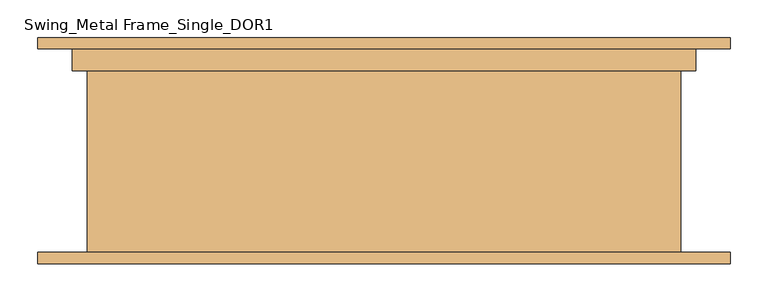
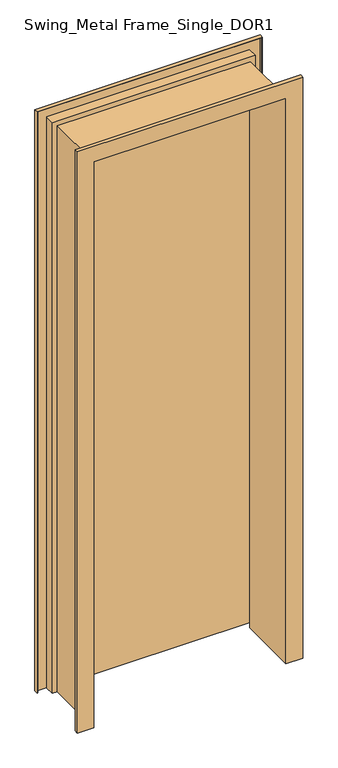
"""IFC4 building model written with IfcOpenShell, lengths in millimetres: door geometry, Swing_Metal Frame_Single_DOR1 : 2040h x 820 (2110x920 STUD)."""

import ifcopenshell
import ifcopenshell.guid

model = None  # the IFC model being written
_history = None  # IfcOwnerHistory: only IFC2X3 demands one
_inside = {}  # id of a spatial element -> (the spatial element, [elements in it])
_under = {}  # id of a project, library or spatial element -> (it, [spatial elements below it])
_declared = {}  # id of a project -> (the project, [libraries it declares])
_typed = {}  # id of a type object -> (the type object, [elements of that type])
_made_of = {}  # id of a material, layer set ... -> (it, [elements and type objects made of it])


def new_model(schema):
    """Start an empty IFC model of exactly this schema.

    Asked for "IFC4X3", IfcOpenShell would pick the latest addendum, in which some entities
    have other attributes; the version numbers below select the first issue.
    IFC2X3 requires an IfcOwnerHistory on every rooted entity: one is made here for all.
    """
    global model, _history
    if schema == "IFC4X3":
        model = ifcopenshell.file(schema_version=(4, 3, 0, 0))
    else:
        model = ifcopenshell.file(schema=schema)
    _inside.clear()
    _under.clear()
    _declared.clear()
    _typed.clear()
    _made_of.clear()
    _history = None
    if model.schema == "IFC2X3":
        org = make("IfcOrganization", Name="unknown")
        user = make(
            "IfcPersonAndOrganization",
            ThePerson=make("IfcPerson", FamilyName="unknown"),
            TheOrganization=org,
        )
        app = make(
            "IfcApplication",
            ApplicationDeveloper=org,
            Version="unknown",
            ApplicationFullName="unknown",
            ApplicationIdentifier="unknown",
        )
        _history = make(
            "IfcOwnerHistory",
            OwningUser=user,
            OwningApplication=app,
            ChangeAction="ADDED",
            CreationDate=0,
        )
    return model


def make(cls, **values):
    """One entity of the class cls with the attributes given. An attribute that is None is left unset."""
    return model.create_entity(
        cls, **{name: value for name, value in values.items() if value is not None}
    )


def rooted(cls, **values):
    """An entity with a GlobalId (a new one), such as an element, a storey or a relation."""
    return make(cls, GlobalId=ifcopenshell.guid.new(), OwnerHistory=_history, **values)


def si_unit(unit_type, name, prefix=None):
    """IfcSIUnit, for example si_unit("LENGTHUNIT", "METRE", prefix="MILLI")."""
    return make("IfcSIUnit", UnitType=unit_type, Prefix=prefix, Name=name)


def assignment(units):
    """IfcUnitAssignment: the units of a project."""
    return None if units is None else make("IfcUnitAssignment", Units=units)


def point(xyz):
    """IfcCartesianPoint."""
    return None if xyz is None else make("IfcCartesianPoint", Coordinates=xyz)


def direction(xyz):
    """IfcDirection."""
    return None if xyz is None else make("IfcDirection", DirectionRatios=xyz)


def frame(location, z_axis=None, x_axis=None):
    """IfcAxis2Placement3D, a coordinate frame: its origin and axes. An axis left out is left unset."""
    return make(
        "IfcAxis2Placement3D",
        Location=point(location),
        Axis=direction(z_axis),
        RefDirection=direction(x_axis),
    )


def origin():
    """The frame at (0, 0, 0) with its axes left unset."""
    return frame((0.0, 0.0, 0.0))


def place(relative_to, where):
    """IfcLocalPlacement: puts the frame where relative to a parent placement (None: the world)."""
    return make(
        "IfcLocalPlacement", PlacementRelTo=relative_to, RelativePlacement=where
    )


def context(
    kind, dimensions, precision=None, world=None, true_north=None, identifier=None
):
    """IfcGeometricRepresentationContext, for example the 3D "Model" context."""
    return make(
        "IfcGeometricRepresentationContext",
        ContextIdentifier=identifier,
        ContextType=kind,
        CoordinateSpaceDimension=dimensions,
        Precision=precision,
        WorldCoordinateSystem=world,
        TrueNorth=true_north,
    )


def project(units=None, contexts=None):
    """IfcProject with its units and contexts."""
    return rooted(
        "IfcProject",
        Name="project",
        RepresentationContexts=contexts,
        UnitsInContext=assignment(units),
    )


def spatial(cls, under=None, at=None, **own):
    """A site, building, storey or space (cls), placed at a placement, below another one or the project."""
    s = rooted(cls, ObjectPlacement=at, **own)
    if under is not None:
        _under.setdefault(under.id(), (under, []))[1].append(s)
    return s


def polyline(points):
    """IfcPolyline through the points."""
    return make("IfcPolyline", Points=[point(p) for p in points])


def outline(outer, holes=None, kind="AREA"):
    """IfcArbitraryClosedProfileDef: a profile drawn as a closed curve; with holes, ...WithVoids."""
    if holes is None:
        return make("IfcArbitraryClosedProfileDef", ProfileType=kind, OuterCurve=outer)
    return make(
        "IfcArbitraryProfileDefWithVoids",
        ProfileType=kind,
        OuterCurve=outer,
        InnerCurves=holes,
    )


def extrude(swept, where, along, depth):
    """IfcExtrudedAreaSolid: the profile swept, set in the frame where, extruded along a direction by depth."""
    return make(
        "IfcExtrudedAreaSolid",
        SweptArea=swept,
        Position=where,
        ExtrudedDirection=direction(along),
        Depth=depth,
    )


def faces_of(points, faces, orient=None, outer=None):
    """IfcFace entities. A face is a list of loops; a loop is a list of indices into points, from 0.

    orient and outer hold one flag for each loop. By default every Orientation is true, the
    first loop of a face is its IfcFaceOuterBound and the others are IfcFaceBound.
    """
    made = []
    for i, loops in enumerate(faces):
        bounds = []
        for j, loop in enumerate(loops):
            is_outer = j == 0 if outer is None else outer[i][j]
            bounds.append(
                make(
                    "IfcFaceOuterBound" if is_outer else "IfcFaceBound",
                    Bound=make("IfcPolyLoop", Polygon=[points[k] for k in loop]),
                    Orientation=True if orient is None else orient[i][j],
                )
            )
        made.append(make("IfcFace", Bounds=bounds))
    return made


def faceted_brep(points, faces, orient=None, outer=None, voids=None):
    """IfcFacetedBrep: a solid bounded by flat faces; with voids (closed shells), ...WithVoids."""
    shared = [point(p) for p in points]
    hull = make("IfcClosedShell", CfsFaces=faces_of(shared, faces, orient, outer))
    if voids is None:
        return make("IfcFacetedBrep", Outer=hull)
    return make(
        "IfcFacetedBrepWithVoids",
        Outer=hull,
        Voids=[
            make(cls, CfsFaces=faces_of(shared, fs, o, b)) for cls, fs, o, b in voids
        ],
    )


def shape(context_of_items, identifier, shape_type, items):
    """IfcShapeRepresentation: the items that make up one representation, for example the "Body"."""
    return make(
        "IfcShapeRepresentation",
        ContextOfItems=context_of_items,
        RepresentationIdentifier=identifier,
        RepresentationType=shape_type,
        Items=items,
    )


def source(mapping_origin, context_of_items, identifier, shape_type, items):
    """IfcRepresentationMap: a shape defined once, which mapped items show again and again."""
    return make(
        "IfcRepresentationMap",
        MappingOrigin=mapping_origin,
        MappedRepresentation=shape(context_of_items, identifier, shape_type, items),
    )


def transform(
    local_origin,
    x_axis=None,
    y_axis=None,
    z_axis=None,
    scale=None,
    scale2=None,
    scale3=None,
    uniform=True,
):
    """IfcCartesianTransformationOperator3D, or its non-uniform kind. x_axis, y_axis, z_axis: its Axis1, 2, 3."""
    if uniform:
        return make(
            "IfcCartesianTransformationOperator3D",
            Axis1=direction(x_axis),
            Axis2=direction(y_axis),
            LocalOrigin=point(local_origin),
            Scale=scale,
            Axis3=direction(z_axis),
        )
    return make(
        "IfcCartesianTransformationOperator3DnonUniform",
        Axis1=direction(x_axis),
        Axis2=direction(y_axis),
        LocalOrigin=point(local_origin),
        Scale=scale,
        Axis3=direction(z_axis),
        Scale2=scale2,
        Scale3=scale3,
    )


def mapped(mapping_source, mapping_target):
    """IfcMappedItem: shows the shape of a source again, moved by a transform."""
    return make(
        "IfcMappedItem", MappingSource=mapping_source, MappingTarget=mapping_target
    )


def made_of(thing, what):
    """Note that an element or type object is made of a material, layer set ...; save() writes the relation."""
    if what is not None:
        _made_of.setdefault(what.id(), (what, []))[1].append(thing)
    return thing


def element(
    cls,
    number,
    at=None,
    inside=None,
    cuts=None,
    type_object=None,
    material=None,
    context=None,
    identifier="Body",
    shape_type=None,
    held_by="IfcProductDefinitionShape",
    body=None,
    shapes=None,
    **own,
):
    """One element of the class cls, such as IfcWall. Its Tag is "e" and its number.

    at: its placement. inside: the storey or other place that contains it. cuts: it is an
    opening in that element (IfcRelVoidsElement). A single representation is given by context,
    identifier, shape_type and body (its items); several are given by shapes. held_by: the class
    of the entity that holds the representations. save() writes the other relations.
    """
    e = rooted(cls, Tag="e%d" % number, ObjectPlacement=at, **own)
    if body is not None:
        shapes = [shape(context, identifier, shape_type, body)]
    if shapes is not None:
        e.Representation = make(held_by, Representations=shapes)
    if inside is not None:
        _inside.setdefault(inside.id(), (inside, []))[1].append(e)
    if cuts is not None:
        rooted(
            "IfcRelVoidsElement", RelatingBuildingElement=cuts, RelatedOpeningElement=e
        )
    if type_object is not None:
        _typed.setdefault(type_object.id(), (type_object, []))[1].append(e)
    return made_of(e, material)


def aggregate(whole, parts):
    """IfcRelAggregates: a whole, such as a stair, and the parts it consists of."""
    return rooted("IfcRelAggregates", RelatingObject=whole, RelatedObjects=parts)


def save(model, path):
    """Write the relations noted so far, then the file.

    IfcRelAggregates (storeys below a building ...), IfcRelContainedInSpatialStructure (elements
    in a storey), IfcRelDefinesByType, IfcRelAssociatesMaterial and IfcRelDeclares: one each for
    every whole, place, type object, material and project.
    """
    for whole, parts in _under.values():
        aggregate(whole, parts)
    for where, things in _inside.values():
        rooted(
            "IfcRelContainedInSpatialStructure",
            RelatedElements=things,
            RelatingStructure=where,
        )
    for kind, things in _typed.values():
        rooted("IfcRelDefinesByType", RelatedObjects=things, RelatingType=kind)
    for what, things in _made_of.values():
        rooted("IfcRelAssociatesMaterial", RelatedObjects=things, RelatingMaterial=what)
    for by, libraries in _declared.values():
        rooted("IfcRelDeclares", RelatingContext=by, RelatedDefinitions=libraries)
    model.write(path)


def swing_metal_frame_single_dor1_c5ce34d2(model_context):
    return source(origin(), model_context, "Body", "SolidModel", [
        extrude(outline(polyline([(410.0, 150.0), (410.0, 110.0), (-410.0, 110.0), (-410.0, 150.0), (410.0, 150.0)])), frame((0.0, 0.0, 20.0), z_axis=(0.0, 0.0, 1.0), x_axis=(1.0, 0.0, 0.0)), (0.0, 0.0, 1.0), 2440.0),
        faceted_brep([(-460.0, -150.0, 0.0), (-460.0, -135.0, 0.0), (-458.0, -135.0, 0.0), (-458.0, -148.0, 0.0), (-394.0, -148.0, 0.0), (-394.0, 106.0, 0.0), (-414.0, 106.0, 0.0), (-414.0, 148.0, 0.0), (-458.0, 148.0, 0.0), (-458.0, 135.0, 0.0), (-460.0, 135.0, 0.0), (-460.0, 150.0, 0.0), (-412.0, 150.0, 0.0), (-412.0, 108.0, 0.0), (-392.0, 108.0, 0.0), (-392.0, -150.0, 0.0), (-460.0, -150.0, 2510.0), (-460.0, -135.0, 2510.0), (460.0, -135.0, 2510.0), (460.0, -135.0, 0.0), (458.0, -135.0, 0.0), (458.0, -135.0, 2508.0), (-458.0, -135.0, 2508.0), (-458.0, -148.0, 2508.0), (458.0, -148.0, 2508.0), (458.0, -148.0, 0.0), (394.0, -148.0, 0.0), (394.0, -148.0, 2444.0), (-394.0, -148.0, 2444.0), (-394.0, 106.0, 2444.0), (394.0, 106.0, 2444.0), (394.0, 106.0, 0.0), (414.0, 106.0, 0.0), (414.0, 106.0, 2464.0), (-414.0, 106.0, 2464.0), (-414.0, 148.0, 2464.0), (414.0, 148.0, 2464.0), (414.0, 148.0, 0.0), (458.0, 148.0, 0.0), (458.0, 148.0, 2508.0), (-458.0, 148.0, 2508.0), (-458.0, 135.0, 2508.0), (458.0, 135.0, 2508.0), (458.0, 135.0, 0.0), (460.0, 135.0, 0.0), (460.0, 135.0, 2510.0), (-460.0, 135.0, 2510.0), (-460.0, 150.0, 2510.0), (460.0, 150.0, 2510.0), (460.0, 150.0, 0.0), (412.0, 150.0, 0.0), (412.0, 150.0, 2462.0), (-412.0, 150.0, 2462.0), (-412.0, 108.0, 2462.0), (412.0, 108.0, 2462.0), (412.0, 108.0, 0.0), (392.0, 108.0, 0.0), (392.0, 108.0, 2442.0), (-392.0, 108.0, 2442.0), (-392.0, -150.0, 2442.0), (392.0, -150.0, 2442.0), (392.0, -150.0, 0.0), (460.0, -150.0, 0.0), (460.0, -150.0, 2510.0)], [[[0, 1, 2, 3, 4, 5, 6, 7, 8, 9, 10, 11, 12, 13, 14, 15]], [[1, 0, 16, 17]], [[2, 1, 17, 18, 19, 20, 21, 22]], [[3, 2, 22, 23]], [[4, 3, 23, 24, 25, 26, 27, 28]], [[5, 4, 28, 29]], [[6, 5, 29, 30, 31, 32, 33, 34]], [[7, 6, 34, 35]], [[8, 7, 35, 36, 37, 38, 39, 40]], [[9, 8, 40, 41]], [[10, 9, 41, 42, 43, 44, 45, 46]], [[11, 10, 46, 47]], [[12, 11, 47, 48, 49, 50, 51, 52]], [[13, 12, 52, 53]], [[14, 13, 53, 54, 55, 56, 57, 58]], [[15, 14, 58, 59]], [[0, 15, 59, 60, 61, 62, 63, 16]], [[18, 63, 62, 19]], [[62, 61, 56, 55, 50, 49, 44, 43, 38, 37, 32, 31, 26, 25, 20, 19]], [[24, 21, 20, 25]], [[30, 27, 26, 31]], [[36, 33, 32, 37]], [[42, 39, 38, 43]], [[48, 45, 44, 49]], [[54, 51, 50, 55]], [[60, 57, 56, 61]], [[17, 16, 63, 18]], [[23, 22, 21, 24]], [[29, 28, 27, 30]], [[35, 34, 33, 36]], [[41, 40, 39, 42]], [[47, 46, 45, 48]], [[53, 52, 51, 54]], [[59, 58, 57, 60]]]),
    ])


if __name__ == "__main__":
    model = new_model("IFC4")
    model_context = context("Model", 3, world=origin())
    ifc_project = project(units=[si_unit("LENGTHUNIT", "METRE", prefix="MILLI")], contexts=[model_context])
    site = spatial("IfcSite", under=ifc_project)
    building = spatial("IfcBuilding", under=site)
    placement = place(None, origin())
    swing_metal_frame_single_dor1_shape = swing_metal_frame_single_dor1_c5ce34d2(model_context)
    element("IfcDoor", 1, ObjectType="Swing_Metal Frame_Single_DOR1 : 2040h x 820 (2110x920 STUD)", at=placement, inside=building, context=model_context, shape_type="MappedRepresentation", body=[
        mapped(swing_metal_frame_single_dor1_shape, transform((0.0, 0.0, 0.0), x_axis=(1.0, 0.0, 0.0), y_axis=(0.0, 1.0, 0.0), z_axis=(0.0, 0.0, 1.0))),
    ])
    save(model, "model.ifc")
